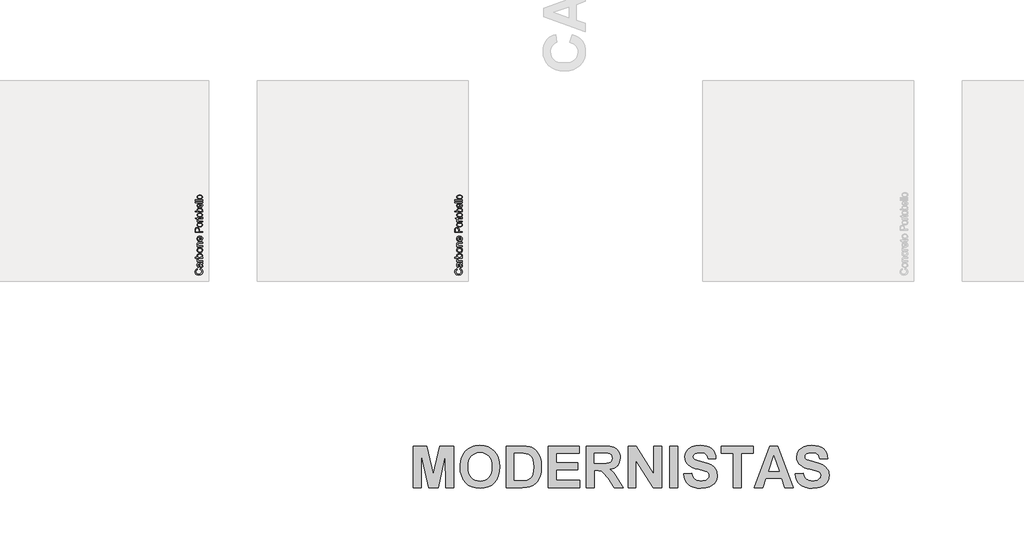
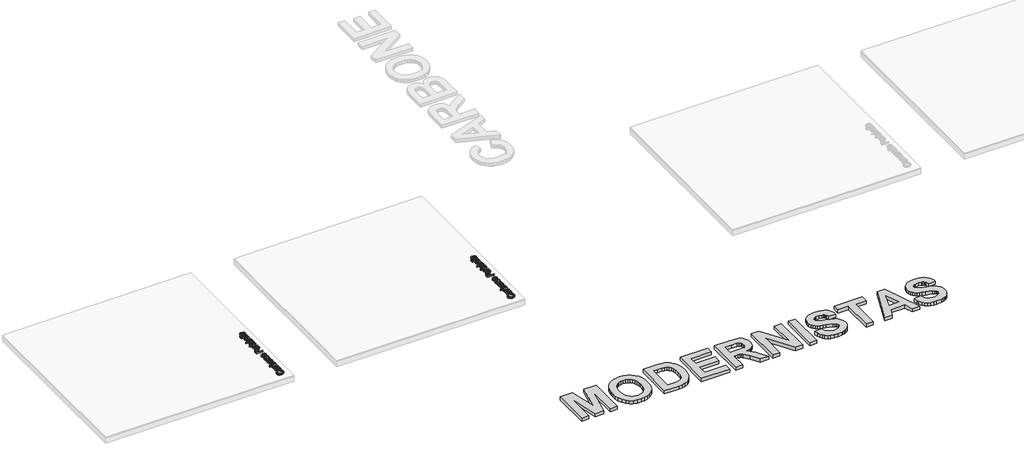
# One storey, part 3 of 12: 5 proxies.
"""IFC4 building model written with IfcOpenShell, lengths in millimetres."""

from ifc_helpers import new_model, si_unit, frame, origin, origin_with_axes, place, context, project, spatial, polyline, outline, extrude, element, save

model = new_model("IFC4")

# Units and contexts
model_context = context("Model", 3, world=origin())
ifc_project = project(units=[si_unit("LENGTHUNIT", "METRE", prefix="MILLI")], contexts=[model_context])

# Site, building, storey
site = spatial("IfcSite", under=ifc_project)
building = spatial("IfcBuilding", under=site)
storey = spatial("IfcBuildingStorey", under=building, Name="PORTOBELLO - SHOWROOM", Elevation=0.0)

# Proxies
placement = place(None, origin())
element("IfcBuildingElementProxy", 1, Name="10mm Arial", ObjectType="10mm Arial", at=placement, inside=storey, context=model_context, shape_type="SweptSolid", body=[
    extrude(outline(polyline([(-25305.3095564, -9697.3091823), (-25302.0721949, -9684.7521435), (-25287.4396885, -9690.5462849), (-25276.7496509, -9699.6391016), (-25270.2105484, -9711.5830037), (-25268.0308476, -9725.9304015), (-25269.6801852, -9740.4954628), (-25274.628198, -9752.0622859), (-25282.7032078, -9760.928242), (-25293.7335363, -9767.3907024), (-25320.588922, -9772.6514149), (-25335.2367567, -9771.1645585), (-25347.885766, -9766.7039893), (-25358.1343452, -9759.5026993), (-25365.58089, -9749.7936803), (-25370.1150356, -9738.2789738), (-25371.6264174, -9725.6606214), (-25369.6705115, -9711.8926377), (-25363.8027937, -9700.5097556), (-25354.3850146, -9691.8675944), (-25341.7789249, -9686.3217734), (-25338.786818, -9698.8788121), (-25354.2255991, -9709.179508), (-25359.0693787, -9726.1511307), (-25353.6983015, -9745.7960293), (-25339.2773273, -9756.8938028), (-25320.6134474, -9760.0943761), (-25298.9819861, -9756.3051916), (-25285.1618858, -9744.5084423), (-25280.5878863, -9727.1812003), (-25282.1452535, -9716.6996291), (-25286.8173548, -9707.9654974), (-25294.5551394, -9701.3712127), (-25305.3095564, -9697.3091823)])), frame((0.0, 0.0, 17.0), z_axis=(0.0, 0.0, 1.0), x_axis=(1.0, 0.0, 0.0)), (0.0, 0.0, 1.0), 20.0),
    extrude(outline(polyline([(-25279.0182565, -9621.9669497), (-25270.5079197, -9634.1438437), (-25268.0308476, -9647.596062), (-25269.5207697, -9658.0898959), (-25273.9905359, -9665.8307462), (-25280.7779587, -9670.6040151), (-25289.2208505, -9672.1951048), (-25299.1536644, -9669.7916091), (-25306.3641515, -9663.4763015), (-25310.4844298, -9654.6839218), (-25312.3728907, -9643.8191402), (-25316.6893728, -9622.0405261), (-25319.485276, -9621.9669497), (-25328.7559023, -9625.4250404), (-25332.3856713, -9639.3064544), (-25329.9699128, -9652.010646), (-25321.3982623, -9658.0684361), (-25322.9678922, -9670.6254749), (-25335.2306254, -9665.1930841), (-25342.416587, -9654.2547261), (-25344.94271, -9637.6877736), (-25342.7108926, -9622.4697217), (-25337.1068235, -9613.8735458), (-25328.584224, -9610.0230476), (-25317.5968151, -9609.4099109), (-25301.974093, -9609.4099109), (-25280.1586907, -9608.7722488), (-25269.6004774, -9606.2706512), (-25269.6004774, -9618.82769), (-25279.0182565, -9621.9669497)]), holes=[polyline([(-25304.132334, -9621.9669497), (-25300.2818358, -9642.2249849), (-25298.2462221, -9653.0284528), (-25294.9352842, -9657.9212833), (-25290.1037673, -9659.638066), (-25283.3102131, -9655.8979324), (-25280.5878863, -9644.9227862), (-25283.592256, -9632.2185946), (-25290.8640567, -9624.0270889), (-25300.5761414, -9622.0405261), (-25304.132334, -9621.9669497)])]), frame((0.0, 0.0, 17.0), z_axis=(0.0, 0.0, 1.0), x_axis=(1.0, 0.0, 0.0)), (0.0, 0.0, 1.0), 20.0),
    extrude(outline(polyline([(-25269.6004774, -9592.1439826), (-25343.3730802, -9592.1439826), (-25343.3730802, -9581.1565737), (-25332.4592477, -9581.1565737), (-25342.5146889, -9573.3574754), (-25344.94271, -9565.5093262), (-25341.0676864, -9552.9032364), (-25329.8104973, -9557.0970912), (-25332.3856713, -9565.9262591), (-25329.9085992, -9573.0263816), (-25323.0414686, -9577.5513301), (-25308.3752397, -9579.5869438), (-25269.6004774, -9579.5869438), (-25269.6004774, -9592.1439826)])), frame((0.0, 0.0, 17.0), z_axis=(0.0, 0.0, 1.0), x_axis=(1.0, 0.0, 0.0)), (0.0, 0.0, 1.0), 20.0),
    extrude(outline(polyline([(-25269.6004774, -9532.4980485), (-25269.6004774, -9545.0550872), (-25370.0567876, -9545.0550872), (-25370.0567876, -9532.4980485), (-25332.8026042, -9532.4980485), (-25341.9076836, -9523.7056688), (-25344.94271, -9512.7795735), (-25342.2081205, -9500.1980093), (-25334.5193868, -9490.4368737), (-25322.563222, -9484.4403971), (-25307.5904248, -9482.2698934), (-25290.8272685, -9484.5170392), (-25278.3560689, -9491.2584768), (-25270.6121529, -9501.1514368), (-25268.0308476, -9512.8531499), (-25271.3601796, -9524.0183685), (-25281.3481758, -9532.4980485), (-25269.6004774, -9532.4980485)]), holes=[polyline([(-25307.0018136, -9532.4980485), (-25289.4415797, -9529.0644832), (-25282.8013097, -9522.4855268), (-25280.5878863, -9513.9322704), (-25282.2188299, -9506.6849951), (-25287.1116604, -9500.4923149), (-25295.2357211, -9496.2432778), (-25306.5603552, -9494.8269321), (-25318.0505362, -9496.1850298), (-25326.0826264, -9500.2593229), (-25330.8099101, -9506.2588651), (-25332.3856713, -9513.3927102), (-25330.7547278, -9520.6399855), (-25325.8618972, -9526.8326657), (-25317.8849893, -9531.0817028), (-25307.0018136, -9532.4980485)])]), frame((0.0, 0.0, 17.0), z_axis=(0.0, 0.0, 1.0), x_axis=(1.0, 0.0, 0.0)), (0.0, 0.0, 1.0), 20.0),
    extrude(outline(polyline([(-25306.4867788, -9471.2824845), (-25324.2738733, -9468.5662891), (-25336.7757297, -9460.4177029), (-25342.900965, -9450.3499989), (-25344.94271, -9438.2957322), (-25342.4564409, -9425.104097), (-25334.9976334, -9414.5673435), (-25323.1548989, -9407.6603591), (-25307.5168484, -9405.3580309), (-25285.1741486, -9409.4292583), (-25272.5312707, -9421.2873213), (-25268.0308476, -9438.2957322), (-25270.5079197, -9451.646783), (-25277.939136, -9462.1712737), (-25290.0301909, -9469.0046818), (-25306.4867788, -9471.2824845)]), holes=[polyline([(-25306.5113043, -9458.7254457), (-25295.1468163, -9457.2723118), (-25287.0503467, -9452.9129102), (-25282.2035014, -9446.3523479), (-25280.5878863, -9438.2957322), (-25282.2126985, -9430.2759047), (-25287.0871349, -9423.7276052), (-25295.2909034, -9419.3682036), (-25306.9037117, -9417.9150697), (-25317.9371059, -9419.3774006), (-25325.9232109, -9423.7643934), (-25330.7700562, -9430.32189), (-25332.3856713, -9438.2957322), (-25330.7761875, -9446.3523479), (-25325.9477364, -9452.9129102), (-25317.8696609, -9457.2723118), (-25306.5113043, -9458.7254457)])]), frame((0.0, 0.0, 17.0), z_axis=(0.0, 0.0, 1.0), x_axis=(1.0, 0.0, 0.0)), (0.0, 0.0, 1.0), 20.0),
    extrude(outline(polyline([(-25269.6004774, -9391.2313623), (-25343.3730802, -9391.2313623), (-25343.3730802, -9378.6743235), (-25333.0723843, -9378.6743235), (-25341.9751286, -9369.0726035), (-25344.94271, -9355.9637417), (-25342.5514771, -9344.1056787), (-25336.2729577, -9336.0122748), (-25327.0391196, -9332.2476157), (-25314.8990138, -9331.5854282), (-25269.6004774, -9331.5854282), (-25269.6004774, -9344.1424669), (-25313.2067566, -9344.1424669), (-25324.3167928, -9345.5894694), (-25330.190642, -9350.7030292), (-25332.3856713, -9359.3237306), (-25327.4560525, -9372.9476271), (-25320.3130105, -9377.2426494), (-25308.7431217, -9378.6743235), (-25269.6004774, -9378.6743235), (-25269.6004774, -9391.2313623)])), frame((0.0, 0.0, 17.0), z_axis=(0.0, 0.0, 1.0), x_axis=(1.0, 0.0, 0.0)), (0.0, 0.0, 1.0), 20.0),
    extrude(outline(polyline([(-25291.5752953, -9262.6688677), (-25290.0056654, -9250.3570836), (-25280.7289078, -9254.7931273), (-25273.7943322, -9261.8717901), (-25269.4717187, -9271.4336563), (-25268.0308476, -9283.3193104), (-25270.5171167, -9298.0529843), (-25277.9759242, -9309.3898811), (-25289.922892, -9316.6187623), (-25305.8736422, -9319.0283894), (-25322.3608869, -9316.5942368), (-25334.6910651, -9309.2917792), (-25342.3797988, -9298.1081666), (-25344.94271, -9284.0305489), (-25342.3859302, -9270.3913239), (-25334.7155906, -9259.4928198), (-25322.4099378, -9252.3467121), (-25305.9472185, -9249.9646762), (-25302.5627042, -9250.0382526), (-25302.5627042, -9306.4713506), (-25293.1633192, -9304.2977812), (-25286.2532691, -9299.2486008), (-25282.004232, -9291.9614716), (-25280.5878863, -9283.0740557), (-25283.2121112, -9270.7622716), (-25291.5752953, -9262.6688677)]), holes=[polyline([(-25315.119743, -9306.4713506), (-25315.119743, -9262.5217149), (-25326.4995593, -9267.5494355), (-25330.9141433, -9274.8702872), (-25332.3856713, -9284.0795998), (-25327.6890445, -9299.5429064), (-25322.1984057, -9304.4081458), (-25315.119743, -9306.4713506)])]), frame((0.0, 0.0, 17.0), z_axis=(0.0, 0.0, 1.0), x_axis=(1.0, 0.0, 0.0)), (0.0, 0.0, 1.0), 20.0),
])
element("IfcBuildingElementProxy", 2, Name="10mm Arial", ObjectType="10mm Arial", at=placement, inside=storey, context=model_context, shape_type="SweptSolid", body=[
    extrude(outline(polyline([(-28805.3095564, -9697.3091823), (-28802.0721949, -9684.7521435), (-28787.4396885, -9690.5462849), (-28776.7496509, -9699.6391016), (-28770.2105484, -9711.5830037), (-28768.0308476, -9725.9304015), (-28769.6801852, -9740.4954628), (-28774.628198, -9752.0622859), (-28782.7032078, -9760.928242), (-28793.7335363, -9767.3907024), (-28820.588922, -9772.6514149), (-28835.2367567, -9771.1645585), (-28847.885766, -9766.7039893), (-28858.1343452, -9759.5026993), (-28865.58089, -9749.7936803), (-28870.1150356, -9738.2789738), (-28871.6264174, -9725.6606214), (-28869.6705115, -9711.8926377), (-28863.8027937, -9700.5097556), (-28854.3850146, -9691.8675944), (-28841.7789249, -9686.3217734), (-28838.786818, -9698.8788121), (-28854.2255991, -9709.179508), (-28859.0693787, -9726.1511307), (-28853.6983015, -9745.7960293), (-28839.2773273, -9756.8938028), (-28820.6134474, -9760.0943761), (-28798.9819861, -9756.3051916), (-28785.1618858, -9744.5084423), (-28780.5878863, -9727.1812003), (-28782.1452535, -9716.6996291), (-28786.8173548, -9707.9654974), (-28794.5551394, -9701.3712127), (-28805.3095564, -9697.3091823)])), frame((0.0, 0.0, 17.0), z_axis=(0.0, 0.0, 1.0), x_axis=(1.0, 0.0, 0.0)), (0.0, 0.0, 1.0), 20.0),
    extrude(outline(polyline([(-28779.0182565, -9621.9669497), (-28770.5079197, -9634.1438437), (-28768.0308476, -9647.596062), (-28769.5207697, -9658.0898959), (-28773.9905359, -9665.8307462), (-28780.7779587, -9670.6040151), (-28789.2208505, -9672.1951048), (-28799.1536644, -9669.7916091), (-28806.3641515, -9663.4763015), (-28810.4844298, -9654.6839218), (-28812.3728907, -9643.8191402), (-28816.6893728, -9622.0405261), (-28819.485276, -9621.9669497), (-28828.7559023, -9625.4250404), (-28832.3856713, -9639.3064544), (-28829.9699128, -9652.010646), (-28821.3982623, -9658.0684361), (-28822.9678922, -9670.6254749), (-28835.2306254, -9665.1930841), (-28842.416587, -9654.2547261), (-28844.94271, -9637.6877736), (-28842.7108926, -9622.4697217), (-28837.1068235, -9613.8735458), (-28828.584224, -9610.0230476), (-28817.5968151, -9609.4099109), (-28801.974093, -9609.4099109), (-28780.1586907, -9608.7722488), (-28769.6004774, -9606.2706512), (-28769.6004774, -9618.82769), (-28779.0182565, -9621.9669497)]), holes=[polyline([(-28804.132334, -9621.9669497), (-28800.2818358, -9642.2249849), (-28798.2462221, -9653.0284528), (-28794.9352842, -9657.9212833), (-28790.1037673, -9659.638066), (-28783.3102131, -9655.8979324), (-28780.5878863, -9644.9227862), (-28783.592256, -9632.2185946), (-28790.8640567, -9624.0270889), (-28800.5761414, -9622.0405261), (-28804.132334, -9621.9669497)])]), frame((0.0, 0.0, 17.0), z_axis=(0.0, 0.0, 1.0), x_axis=(1.0, 0.0, 0.0)), (0.0, 0.0, 1.0), 20.0),
    extrude(outline(polyline([(-28769.6004774, -9592.1439826), (-28843.3730802, -9592.1439826), (-28843.3730802, -9581.1565737), (-28832.4592477, -9581.1565737), (-28842.5146889, -9573.3574754), (-28844.94271, -9565.5093262), (-28841.0676864, -9552.9032364), (-28829.8104973, -9557.0970912), (-28832.3856713, -9565.9262591), (-28829.9085992, -9573.0263816), (-28823.0414686, -9577.5513301), (-28808.3752397, -9579.5869438), (-28769.6004774, -9579.5869438), (-28769.6004774, -9592.1439826)])), frame((0.0, 0.0, 17.0), z_axis=(0.0, 0.0, 1.0), x_axis=(1.0, 0.0, 0.0)), (0.0, 0.0, 1.0), 20.0),
    extrude(outline(polyline([(-28769.6004774, -9532.4980485), (-28769.6004774, -9545.0550872), (-28870.0567876, -9545.0550872), (-28870.0567876, -9532.4980485), (-28832.8026042, -9532.4980485), (-28841.9076836, -9523.7056688), (-28844.94271, -9512.7795735), (-28842.2081205, -9500.1980093), (-28834.5193868, -9490.4368737), (-28822.563222, -9484.4403971), (-28807.5904248, -9482.2698934), (-28790.8272685, -9484.5170392), (-28778.3560689, -9491.2584768), (-28770.6121529, -9501.1514368), (-28768.0308476, -9512.8531499), (-28771.3601796, -9524.0183685), (-28781.3481758, -9532.4980485), (-28769.6004774, -9532.4980485)]), holes=[polyline([(-28807.0018136, -9532.4980485), (-28789.4415797, -9529.0644832), (-28782.8013097, -9522.4855268), (-28780.5878863, -9513.9322704), (-28782.2188299, -9506.6849951), (-28787.1116604, -9500.4923149), (-28795.2357211, -9496.2432778), (-28806.5603552, -9494.8269321), (-28818.0505362, -9496.1850298), (-28826.0826264, -9500.2593229), (-28830.8099101, -9506.2588651), (-28832.3856713, -9513.3927102), (-28830.7547278, -9520.6399855), (-28825.8618972, -9526.8326657), (-28817.8849893, -9531.0817028), (-28807.0018136, -9532.4980485)])]), frame((0.0, 0.0, 17.0), z_axis=(0.0, 0.0, 1.0), x_axis=(1.0, 0.0, 0.0)), (0.0, 0.0, 1.0), 20.0),
    extrude(outline(polyline([(-28806.4867788, -9471.2824845), (-28824.2738733, -9468.5662891), (-28836.7757297, -9460.4177029), (-28842.900965, -9450.3499989), (-28844.94271, -9438.2957322), (-28842.4564409, -9425.104097), (-28834.9976334, -9414.5673435), (-28823.1548989, -9407.6603591), (-28807.5168484, -9405.3580309), (-28785.1741486, -9409.4292583), (-28772.5312707, -9421.2873213), (-28768.0308476, -9438.2957322), (-28770.5079197, -9451.646783), (-28777.939136, -9462.1712737), (-28790.0301909, -9469.0046818), (-28806.4867788, -9471.2824845)]), holes=[polyline([(-28806.5113043, -9458.7254457), (-28795.1468163, -9457.2723118), (-28787.0503467, -9452.9129102), (-28782.2035014, -9446.3523479), (-28780.5878863, -9438.2957322), (-28782.2126985, -9430.2759047), (-28787.0871349, -9423.7276052), (-28795.2909034, -9419.3682036), (-28806.9037117, -9417.9150697), (-28817.9371059, -9419.3774006), (-28825.9232109, -9423.7643934), (-28830.7700562, -9430.32189), (-28832.3856713, -9438.2957322), (-28830.7761875, -9446.3523479), (-28825.9477364, -9452.9129102), (-28817.8696609, -9457.2723118), (-28806.5113043, -9458.7254457)])]), frame((0.0, 0.0, 17.0), z_axis=(0.0, 0.0, 1.0), x_axis=(1.0, 0.0, 0.0)), (0.0, 0.0, 1.0), 20.0),
    extrude(outline(polyline([(-28769.6004774, -9391.2313623), (-28843.3730802, -9391.2313623), (-28843.3730802, -9378.6743235), (-28833.0723843, -9378.6743235), (-28841.9751286, -9369.0726035), (-28844.94271, -9355.9637417), (-28842.5514771, -9344.1056787), (-28836.2729577, -9336.0122748), (-28827.0391196, -9332.2476157), (-28814.8990138, -9331.5854282), (-28769.6004774, -9331.5854282), (-28769.6004774, -9344.1424669), (-28813.2067566, -9344.1424669), (-28824.3167928, -9345.5894694), (-28830.190642, -9350.7030292), (-28832.3856713, -9359.3237306), (-28827.4560525, -9372.9476271), (-28820.3130105, -9377.2426494), (-28808.7431217, -9378.6743235), (-28769.6004774, -9378.6743235), (-28769.6004774, -9391.2313623)])), frame((0.0, 0.0, 17.0), z_axis=(0.0, 0.0, 1.0), x_axis=(1.0, 0.0, 0.0)), (0.0, 0.0, 1.0), 20.0),
    extrude(outline(polyline([(-28791.5752953, -9262.6688677), (-28790.0056654, -9250.3570836), (-28780.7289078, -9254.7931273), (-28773.7943322, -9261.8717901), (-28769.4717187, -9271.4336563), (-28768.0308476, -9283.3193104), (-28770.5171167, -9298.0529843), (-28777.9759242, -9309.3898811), (-28789.922892, -9316.6187623), (-28805.8736422, -9319.0283894), (-28822.3608869, -9316.5942368), (-28834.6910651, -9309.2917792), (-28842.3797988, -9298.1081666), (-28844.94271, -9284.0305489), (-28842.3859302, -9270.3913239), (-28834.7155906, -9259.4928198), (-28822.4099378, -9252.3467121), (-28805.9472185, -9249.9646762), (-28802.5627042, -9250.0382526), (-28802.5627042, -9306.4713506), (-28793.1633192, -9304.2977812), (-28786.2532691, -9299.2486008), (-28782.004232, -9291.9614716), (-28780.5878863, -9283.0740557), (-28783.2121112, -9270.7622716), (-28791.5752953, -9262.6688677)]), holes=[polyline([(-28815.119743, -9306.4713506), (-28815.119743, -9262.5217149), (-28826.4995593, -9267.5494355), (-28830.9141433, -9274.8702872), (-28832.3856713, -9284.0795998), (-28827.6890445, -9299.5429064), (-28822.1984057, -9304.4081458), (-28815.119743, -9306.4713506)])]), frame((0.0, 0.0, 17.0), z_axis=(0.0, 0.0, 1.0), x_axis=(1.0, 0.0, 0.0)), (0.0, 0.0, 1.0), 20.0),
])
element("IfcBuildingElementProxy", 3, Name="10mm Arial Narrow", ObjectType="10mm Arial Narrow", at=placement, inside=storey, context=model_context, shape_type="SweptSolid", body=[
    extrude(outline(polyline([(-25269.6004774, -9195.6286257), (-25370.3190812, -9195.6286257), (-25370.3190812, -9164.3317411), (-25368.4407604, -9148.0360395), (-25358.9603173, -9136.5630534), (-25341.9412084, -9132.273375), (-25329.8653829, -9134.0596834), (-25320.2389891, -9139.4186086), (-25313.9377307, -9149.1623974), (-25311.8373113, -9164.1032966), (-25311.8373113, -9185.8816641), (-25269.6004774, -9185.8816641), (-25269.6004774, -9195.6286257)]), holes=[polyline([(-25323.2087665, -9185.8816641), (-25323.2087665, -9162.9103091), (-25327.7395807, -9147.0461137), (-25341.4081715, -9142.0203366), (-25351.5739479, -9144.4951511), (-25357.3738977, -9150.47278), (-25358.9476259, -9163.1387536), (-25358.9476259, -9185.8816641), (-25323.2087665, -9185.8816641)])]), frame((0.0, 0.0, 17.0), z_axis=(0.0, 0.0, 1.0), x_axis=(1.0, 0.0, 0.0)), (0.0, 0.0, 1.0), 20.0),
    extrude(outline(polyline([(-25306.1515836, -9124.1509069), (-25322.7423592, -9122.1964381), (-25334.694444, -9116.3330315), (-25341.9189986, -9107.4744647), (-25344.3271834, -9096.5345156), (-25341.9189986, -9085.72148), (-25334.694444, -9076.8375306), (-25322.9327295, -9070.8979758), (-25306.913065, -9068.9181242), (-25289.7511784, -9070.8630746), (-25277.6087233, -9076.6979257), (-25270.3841687, -9085.5469739), (-25267.9759838, -9096.5345156), (-25270.3905144, -9107.3951438), (-25277.634106, -9116.2695747), (-25289.5925365, -9122.1805739), (-25306.1515836, -9124.1509069)]), holes=[polyline([(-25306.1769663, -9114.4039453), (-25293.6252149, -9113.0999084), (-25284.7539569, -9109.1877978), (-25279.4806983, -9103.3466011), (-25277.7229455, -9096.2553058), (-25279.4965625, -9089.5352326), (-25284.8174137, -9083.8431593), (-25293.7045359, -9079.9596042), (-25306.1769663, -9078.6650859), (-25318.6906437, -9079.9691228), (-25327.5492104, -9083.8812333), (-25332.8224689, -9089.7224301), (-25334.5802218, -9096.8137254), (-25332.8129504, -9103.5813912), (-25327.5111363, -9109.263946), (-25318.6430511, -9113.1189455), (-25306.1769663, -9114.4039453)])]), frame((0.0, 0.0, 17.0), z_axis=(0.0, 0.0, 1.0), x_axis=(1.0, 0.0, 0.0)), (0.0, 0.0, 1.0), 20.0),
    extrude(outline(polyline([(-25277.7229455, -8997.4404054), (-25267.9759838, -8995.8159118), (-25267.9759838, -9003.1768985), (-25270.0954403, -9011.4516628), (-25275.8953902, -9015.766724), (-25290.5412154, -9016.9343288), (-25332.9557282, -9016.9343288), (-25332.9557282, -9025.0567968), (-25336.2047154, -9025.0567968), (-25331.3312346, -9026.6812904), (-25332.9557282, -9034.2453388), (-25330.63321, -9040.3244985), (-25324.1479269, -9044.1953621), (-25308.7406203, -9046.1752137), (-25269.6004774, -9046.1752137), (-25269.6004774, -9055.9221754), (-25342.7026898, -9055.9221754), (-25342.7026898, -9046.1752137), (-25333.0064936, -9046.1752137), (-25342.0935047, -9039.9310664), (-25344.3271834, -9033.5346228), (-25342.7026898, -9025.0567968), (-25342.7026898, -9016.9343288), (-25358.9476259, -9016.9343288), (-25367.070094, -9007.1873671), (-25342.7026898, -9007.1873671), (-25342.7026898, -8997.4404054), (-25332.9557282, -8997.4404054), (-25332.9557282, -9007.1873671), (-25288.3075366, -9007.1873671), (-25280.3119822, -9006.3243549), (-25277.7229455, -9001.7047012), (-25277.7229455, -8997.4404054)])), frame((0.0, 0.0, 17.0), z_axis=(0.0, 0.0, 1.0), x_axis=(1.0, 0.0, 0.0)), (0.0, 0.0, 1.0), 20.0),
    extrude(outline(polyline([(-25306.1515836, -8990.942431), (-25322.7423592, -8988.9879621), (-25334.694444, -8983.1245555), (-25341.9189986, -8974.2659888), (-25344.3271834, -8963.3260397), (-25341.9189986, -8952.5130041), (-25334.694444, -8943.6290547), (-25322.9327295, -8937.6894999), (-25306.913065, -8935.7096483), (-25289.7511784, -8937.6545987), (-25277.6087233, -8943.4894497), (-25270.3841687, -8952.3384979), (-25267.9759838, -8963.3260397), (-25270.3905144, -8974.1866678), (-25277.634106, -8983.0610987), (-25289.5925365, -8988.9720979), (-25306.1515836, -8990.942431)]), holes=[polyline([(-25306.1769663, -8981.1954694), (-25293.6252149, -8979.8914325), (-25284.7539569, -8975.9793219), (-25279.4806983, -8970.1381252), (-25277.7229455, -8963.0468298), (-25279.4965625, -8956.3267567), (-25284.8174137, -8950.6346833), (-25293.7045359, -8946.7511283), (-25306.1769663, -8945.45661), (-25318.6906437, -8946.7606468), (-25327.5492104, -8950.6727574), (-25332.8224689, -8956.5139542), (-25334.5802218, -8963.6052495), (-25332.8129504, -8970.3729153), (-25327.5111363, -8976.05547), (-25318.6430511, -8979.9104695), (-25306.1769663, -8981.1954694)])]), frame((0.0, 0.0, 17.0), z_axis=(0.0, 0.0, 1.0), x_axis=(1.0, 0.0, 0.0)), (0.0, 0.0, 1.0), 20.0),
    extrude(outline(polyline([(-25269.6004774, -8912.9667378), (-25269.6004774, -8922.7136994), (-25370.3190812, -8922.7136994), (-25370.3190812, -8912.9667378), (-25334.910197, -8912.9667378), (-25341.9919739, -8905.5676771), (-25344.3271834, -8896.3664437), (-25340.1263445, -8883.4847171), (-25327.3969141, -8874.2073356), (-25306.7100033, -8870.729904), (-25290.2556598, -8872.662163), (-25278.0529207, -8878.45894), (-25270.495218, -8886.8320623), (-25267.9759838, -8896.4933573), (-25270.5904032, -8905.8341955), (-25278.3575133, -8912.9667378), (-25269.6004774, -8912.9667378)]), holes=[polyline([(-25306.7100033, -8912.9667378), (-25289.4624501, -8910.8853553), (-25280.7307969, -8904.996566), (-25277.7229455, -8896.5441227), (-25279.5124267, -8890.6013951), (-25284.8808704, -8885.3630378), (-25306.3038799, -8880.4768656), (-25327.7395807, -8885.1853588), (-25332.8700615, -8890.4300618), (-25334.5802218, -8896.7471844), (-25332.7907405, -8902.7248132), (-25327.4222968, -8908.0171088), (-25306.7100033, -8912.9667378)])]), frame((0.0, 0.0, 17.0), z_axis=(0.0, 0.0, 1.0), x_axis=(1.0, 0.0, 0.0)), (0.0, 0.0, 1.0), 20.0),
    extrude(outline(polyline([(-25292.343388, -8818.7461085), (-25290.7188943, -8808.9991468), (-25280.8323278, -8812.6986772), (-25273.7124769, -8818.5176641), (-25269.4101071, -8826.2213173), (-25267.9759838, -8835.5748469), (-25270.3905144, -8847.1684009), (-25277.634106, -8856.3125232), (-25289.4402402, -8862.2520779), (-25305.5423985, -8864.2319295), (-25322.2093222, -8862.2425594), (-25334.3898514, -8856.2744491), (-25341.8428504, -8847.2604133), (-25344.3271834, -8836.1332666), (-25341.9285171, -8825.4503174), (-25334.7325181, -8816.7028001), (-25322.9930135, -8810.867949), (-25306.9638304, -8808.9229987), (-25303.7148432, -8808.9991468), (-25303.7148432, -8854.4849679), (-25284.2716853, -8848.4819563), (-25279.3601304, -8842.5519201), (-25277.7229455, -8835.4479334), (-25281.3780561, -8825.2694656), (-25292.343388, -8818.7461085)]), holes=[polyline([(-25313.4618049, -8853.8250173), (-25313.4618049, -8818.7461085), (-25327.7268894, -8823.0104042), (-25332.8668887, -8828.8357367), (-25334.5802218, -8836.0571185), (-25328.8691114, -8848.2662033), (-25313.4618049, -8853.8250173)])]), frame((0.0, 0.0, 17.0), z_axis=(0.0, 0.0, 1.0), x_axis=(1.0, 0.0, 0.0)), (0.0, 0.0, 1.0), 20.0),
    extrude(outline(polyline([(-25269.6004774, -8796.0031979), (-25370.3190812, -8796.0031979), (-25370.3190812, -8786.2562363), (-25269.6004774, -8786.2562363), (-25269.6004774, -8796.0031979)])), frame((0.0, 0.0, 17.0), z_axis=(0.0, 0.0, 1.0), x_axis=(1.0, 0.0, 0.0)), (0.0, 0.0, 1.0), 20.0),
    extrude(outline(polyline([(-25269.6004774, -8770.0113002), (-25370.3190812, -8770.0113002), (-25370.3190812, -8760.2643385), (-25269.6004774, -8760.2643385), (-25269.6004774, -8770.0113002)])), frame((0.0, 0.0, 17.0), z_axis=(0.0, 0.0, 1.0), x_axis=(1.0, 0.0, 0.0)), (0.0, 0.0, 1.0), 20.0),
    extrude(outline(polyline([(-25306.1515836, -8748.8928833), (-25322.7423592, -8746.9384144), (-25334.694444, -8741.0750078), (-25341.9189986, -8732.2164411), (-25344.3271834, -8721.2764919), (-25341.9189986, -8710.4634563), (-25334.694444, -8701.5795069), (-25322.9327295, -8695.6399522), (-25306.913065, -8693.6601006), (-25289.7511784, -8695.6050509), (-25277.6087233, -8701.439902), (-25270.3841687, -8710.2889502), (-25267.9759838, -8721.2764919), (-25270.3905144, -8732.1371201), (-25277.634106, -8741.011551), (-25289.5925365, -8746.9225502), (-25306.1515836, -8748.8928833)]), holes=[polyline([(-25306.1769663, -8739.1459216), (-25293.6252149, -8737.8418848), (-25284.7539569, -8733.9297742), (-25279.4806983, -8728.0885774), (-25277.7229455, -8720.9972821), (-25279.4965625, -8714.2772089), (-25284.8174137, -8708.5851356), (-25293.7045359, -8704.7015806), (-25306.1769663, -8703.4070622), (-25318.6906437, -8704.7110991), (-25327.5492104, -8708.6232097), (-25332.8224689, -8714.4644064), (-25334.5802218, -8721.5557018), (-25332.8129504, -8728.3233675), (-25327.5111363, -8734.0059223), (-25318.6430511, -8737.8609218), (-25306.1769663, -8739.1459216)])]), frame((0.0, 0.0, 17.0), z_axis=(0.0, 0.0, 1.0), x_axis=(1.0, 0.0, 0.0)), (0.0, 0.0, 1.0), 20.0),
])
element("IfcBuildingElementProxy", 4, Name="10mm Arial Narrow", ObjectType="10mm Arial Narrow", at=placement, inside=storey, context=model_context, shape_type="SweptSolid", body=[
    extrude(outline(polyline([(-28769.6004774, -9195.6286257), (-28870.3190812, -9195.6286257), (-28870.3190812, -9164.3317411), (-28868.4407604, -9148.0360395), (-28858.9603173, -9136.5630534), (-28841.9412084, -9132.273375), (-28829.8653829, -9134.0596834), (-28820.2389891, -9139.4186086), (-28813.9377307, -9149.1623974), (-28811.8373113, -9164.1032966), (-28811.8373113, -9185.8816641), (-28769.6004774, -9185.8816641), (-28769.6004774, -9195.6286257)]), holes=[polyline([(-28823.2087665, -9185.8816641), (-28823.2087665, -9162.9103091), (-28827.7395807, -9147.0461137), (-28841.4081715, -9142.0203366), (-28851.5739479, -9144.4951511), (-28857.3738977, -9150.47278), (-28858.9476259, -9163.1387536), (-28858.9476259, -9185.8816641), (-28823.2087665, -9185.8816641)])]), frame((0.0, 0.0, 17.0), z_axis=(0.0, 0.0, 1.0), x_axis=(1.0, 0.0, 0.0)), (0.0, 0.0, 1.0), 20.0),
    extrude(outline(polyline([(-28806.1515836, -9124.1509069), (-28822.7423592, -9122.1964381), (-28834.694444, -9116.3330315), (-28841.9189986, -9107.4744647), (-28844.3271834, -9096.5345156), (-28841.9189986, -9085.72148), (-28834.694444, -9076.8375306), (-28822.9327295, -9070.8979758), (-28806.913065, -9068.9181242), (-28789.7511784, -9070.8630746), (-28777.6087233, -9076.6979257), (-28770.3841687, -9085.5469739), (-28767.9759838, -9096.5345156), (-28770.3905144, -9107.3951438), (-28777.634106, -9116.2695747), (-28789.5925365, -9122.1805739), (-28806.1515836, -9124.1509069)]), holes=[polyline([(-28806.1769663, -9114.4039453), (-28793.6252149, -9113.0999084), (-28784.7539569, -9109.1877978), (-28779.4806983, -9103.3466011), (-28777.7229455, -9096.2553058), (-28779.4965625, -9089.5352326), (-28784.8174137, -9083.8431593), (-28793.7045359, -9079.9596042), (-28806.1769663, -9078.6650859), (-28818.6906437, -9079.9691228), (-28827.5492104, -9083.8812333), (-28832.8224689, -9089.7224301), (-28834.5802218, -9096.8137254), (-28832.8129504, -9103.5813912), (-28827.5111363, -9109.263946), (-28818.6430511, -9113.1189455), (-28806.1769663, -9114.4039453)])]), frame((0.0, 0.0, 17.0), z_axis=(0.0, 0.0, 1.0), x_axis=(1.0, 0.0, 0.0)), (0.0, 0.0, 1.0), 20.0),
    extrude(outline(polyline([(-28777.7229455, -8997.4404054), (-28767.9759838, -8995.8159118), (-28767.9759838, -9003.1768985), (-28770.0954403, -9011.4516628), (-28775.8953902, -9015.766724), (-28790.5412154, -9016.9343288), (-28832.9557282, -9016.9343288), (-28832.9557282, -9025.0567968), (-28836.2047154, -9025.0567968), (-28831.3312346, -9026.6812904), (-28832.9557282, -9034.2453388), (-28830.63321, -9040.3244985), (-28824.1479269, -9044.1953621), (-28808.7406203, -9046.1752137), (-28769.6004774, -9046.1752137), (-28769.6004774, -9055.9221754), (-28842.7026898, -9055.9221754), (-28842.7026898, -9046.1752137), (-28833.0064936, -9046.1752137), (-28842.0935047, -9039.9310664), (-28844.3271834, -9033.5346228), (-28842.7026898, -9025.0567968), (-28842.7026898, -9016.9343288), (-28858.9476259, -9016.9343288), (-28867.070094, -9007.1873671), (-28842.7026898, -9007.1873671), (-28842.7026898, -8997.4404054), (-28832.9557282, -8997.4404054), (-28832.9557282, -9007.1873671), (-28788.3075366, -9007.1873671), (-28780.3119822, -9006.3243549), (-28777.7229455, -9001.7047012), (-28777.7229455, -8997.4404054)])), frame((0.0, 0.0, 17.0), z_axis=(0.0, 0.0, 1.0), x_axis=(1.0, 0.0, 0.0)), (0.0, 0.0, 1.0), 20.0),
    extrude(outline(polyline([(-28806.1515836, -8990.942431), (-28822.7423592, -8988.9879621), (-28834.694444, -8983.1245555), (-28841.9189986, -8974.2659888), (-28844.3271834, -8963.3260397), (-28841.9189986, -8952.5130041), (-28834.694444, -8943.6290547), (-28822.9327295, -8937.6894999), (-28806.913065, -8935.7096483), (-28789.7511784, -8937.6545987), (-28777.6087233, -8943.4894497), (-28770.3841687, -8952.3384979), (-28767.9759838, -8963.3260397), (-28770.3905144, -8974.1866678), (-28777.634106, -8983.0610987), (-28789.5925365, -8988.9720979), (-28806.1515836, -8990.942431)]), holes=[polyline([(-28806.1769663, -8981.1954694), (-28793.6252149, -8979.8914325), (-28784.7539569, -8975.9793219), (-28779.4806983, -8970.1381252), (-28777.7229455, -8963.0468298), (-28779.4965625, -8956.3267567), (-28784.8174137, -8950.6346833), (-28793.7045359, -8946.7511283), (-28806.1769663, -8945.45661), (-28818.6906437, -8946.7606468), (-28827.5492104, -8950.6727574), (-28832.8224689, -8956.5139542), (-28834.5802218, -8963.6052495), (-28832.8129504, -8970.3729153), (-28827.5111363, -8976.05547), (-28818.6430511, -8979.9104695), (-28806.1769663, -8981.1954694)])]), frame((0.0, 0.0, 17.0), z_axis=(0.0, 0.0, 1.0), x_axis=(1.0, 0.0, 0.0)), (0.0, 0.0, 1.0), 20.0),
    extrude(outline(polyline([(-28769.6004774, -8912.9667378), (-28769.6004774, -8922.7136994), (-28870.3190812, -8922.7136994), (-28870.3190812, -8912.9667378), (-28834.910197, -8912.9667378), (-28841.9919739, -8905.5676771), (-28844.3271834, -8896.3664437), (-28840.1263445, -8883.4847171), (-28827.3969141, -8874.2073356), (-28806.7100033, -8870.729904), (-28790.2556598, -8872.662163), (-28778.0529207, -8878.45894), (-28770.495218, -8886.8320623), (-28767.9759838, -8896.4933573), (-28770.5904032, -8905.8341955), (-28778.3575133, -8912.9667378), (-28769.6004774, -8912.9667378)]), holes=[polyline([(-28806.7100033, -8912.9667378), (-28789.4624501, -8910.8853553), (-28780.7307969, -8904.996566), (-28777.7229455, -8896.5441227), (-28779.5124267, -8890.6013951), (-28784.8808704, -8885.3630378), (-28806.3038799, -8880.4768656), (-28827.7395807, -8885.1853588), (-28832.8700615, -8890.4300618), (-28834.5802218, -8896.7471844), (-28832.7907405, -8902.7248132), (-28827.4222968, -8908.0171088), (-28806.7100033, -8912.9667378)])]), frame((0.0, 0.0, 17.0), z_axis=(0.0, 0.0, 1.0), x_axis=(1.0, 0.0, 0.0)), (0.0, 0.0, 1.0), 20.0),
    extrude(outline(polyline([(-28792.343388, -8818.7461085), (-28790.7188943, -8808.9991468), (-28780.8323278, -8812.6986772), (-28773.7124769, -8818.5176641), (-28769.4101071, -8826.2213173), (-28767.9759838, -8835.5748469), (-28770.3905144, -8847.1684009), (-28777.634106, -8856.3125232), (-28789.4402402, -8862.2520779), (-28805.5423985, -8864.2319295), (-28822.2093222, -8862.2425594), (-28834.3898514, -8856.2744491), (-28841.8428504, -8847.2604133), (-28844.3271834, -8836.1332666), (-28841.9285171, -8825.4503174), (-28834.7325181, -8816.7028001), (-28822.9930135, -8810.867949), (-28806.9638304, -8808.9229987), (-28803.7148432, -8808.9991468), (-28803.7148432, -8854.4849679), (-28784.2716853, -8848.4819563), (-28779.3601304, -8842.5519201), (-28777.7229455, -8835.4479334), (-28781.3780561, -8825.2694656), (-28792.343388, -8818.7461085)]), holes=[polyline([(-28813.4618049, -8853.8250173), (-28813.4618049, -8818.7461085), (-28827.7268894, -8823.0104042), (-28832.8668887, -8828.8357367), (-28834.5802218, -8836.0571185), (-28828.8691114, -8848.2662033), (-28813.4618049, -8853.8250173)])]), frame((0.0, 0.0, 17.0), z_axis=(0.0, 0.0, 1.0), x_axis=(1.0, 0.0, 0.0)), (0.0, 0.0, 1.0), 20.0),
    extrude(outline(polyline([(-28769.6004774, -8796.0031979), (-28870.3190812, -8796.0031979), (-28870.3190812, -8786.2562363), (-28769.6004774, -8786.2562363), (-28769.6004774, -8796.0031979)])), frame((0.0, 0.0, 17.0), z_axis=(0.0, 0.0, 1.0), x_axis=(1.0, 0.0, 0.0)), (0.0, 0.0, 1.0), 20.0),
    extrude(outline(polyline([(-28769.6004774, -8770.0113002), (-28870.3190812, -8770.0113002), (-28870.3190812, -8760.2643385), (-28769.6004774, -8760.2643385), (-28769.6004774, -8770.0113002)])), frame((0.0, 0.0, 17.0), z_axis=(0.0, 0.0, 1.0), x_axis=(1.0, 0.0, 0.0)), (0.0, 0.0, 1.0), 20.0),
    extrude(outline(polyline([(-28806.1515836, -8748.8928833), (-28822.7423592, -8746.9384144), (-28834.694444, -8741.0750078), (-28841.9189986, -8732.2164411), (-28844.3271834, -8721.2764919), (-28841.9189986, -8710.4634563), (-28834.694444, -8701.5795069), (-28822.9327295, -8695.6399522), (-28806.913065, -8693.6601006), (-28789.7511784, -8695.6050509), (-28777.6087233, -8701.439902), (-28770.3841687, -8710.2889502), (-28767.9759838, -8721.2764919), (-28770.3905144, -8732.1371201), (-28777.634106, -8741.011551), (-28789.5925365, -8746.9225502), (-28806.1515836, -8748.8928833)]), holes=[polyline([(-28806.1769663, -8739.1459216), (-28793.6252149, -8737.8418848), (-28784.7539569, -8733.9297742), (-28779.4806983, -8728.0885774), (-28777.7229455, -8720.9972821), (-28779.4965625, -8714.2772089), (-28784.8174137, -8708.5851356), (-28793.7045359, -8704.7015806), (-28806.1769663, -8703.4070622), (-28818.6906437, -8704.7110991), (-28827.5492104, -8708.6232097), (-28832.8224689, -8714.4644064), (-28834.5802218, -8721.5557018), (-28832.8129504, -8728.3233675), (-28827.5111363, -8734.0059223), (-28818.6430511, -8737.8609218), (-28806.1769663, -8739.1459216)])]), frame((0.0, 0.0, 17.0), z_axis=(0.0, 0.0, 1.0), x_axis=(1.0, 0.0, 0.0)), (0.0, 0.0, 1.0), 20.0),
])
element("IfcBuildingElementProxy", 5, Name="550mm Arial", ObjectType="550mm Arial", at=placement, inside=storey, context=model_context, shape_type="SweptSolid", body=[
    extrude(outline(polyline([(-25930.8727561, -12637.6873012), (-25930.8727561, -12076.5446312), (-25747.7220235, -12076.5446312), (-25659.2084476, -12459.2684265), (-25570.6948717, -12076.5446312), (-25387.5441391, -12076.5446312), (-25387.5441391, -12637.6873012), (-25494.4284572, -12637.6873012), (-25498.8819704, -12195.9544553), (-25596.5809174, -12637.6873012), (-25721.6968054, -12637.6873012), (-25819.5349247, -12195.9544553), (-25823.988438, -12637.6873012), (-25930.8727561, -12637.6873012)])), origin_with_axes(), (0.0, 0.0, 1.0), 50.0),
    extrude(outline(polyline([(-25298.473874, -12360.5952734), (-25296.8994875, -12319.5220516), (-25292.1763279, -12281.8933439), (-25284.3043953, -12247.7091504), (-25273.2836897, -12216.969471), (-25251.068313, -12176.4181452), (-25221.9987011, -12140.2159535), (-25187.9536799, -12110.5896525), (-25150.8120752, -12089.7659987), (-25124.0735991, -12080.0848263), (-25095.351918, -12073.1697032), (-25031.9589402, -12067.6376047), (-24974.1154575, -12072.4346996), (-24922.3607625, -12086.8259841), (-24876.6948551, -12110.8114583), (-24837.1177354, -12144.3911222), (-24805.1516002, -12186.5124853), (-24782.3186465, -12236.1230573), (-24768.6188743, -12293.2228381), (-24764.0522836, -12357.8118277), (-24768.5840812, -12421.9615547), (-24782.1794742, -12478.7177539), (-24804.8384626, -12528.0804252), (-24836.5610462, -12570.0495687), (-24875.8772179, -12603.5379007), (-24921.3169703, -12627.4581379), (-24972.8803035, -12641.8102803), (-25030.5672173, -12646.5943277), (-25088.86301, -12641.8320259), (-25140.8612565, -12627.5451206), (-25186.561957, -12603.7336118), (-25225.9651114, -12570.3974994), (-25257.687695, -12528.7110496), (-25280.3466834, -12479.8485287), (-25293.9420764, -12423.8099367), (-25298.473874, -12360.5952734)]), holes=[polyline([(-25191.5895559, -12356.6984493), (-25188.7495714, -12401.0857113), (-25180.2296178, -12439.7495129), (-25166.0296952, -12472.6898541), (-25146.1498035, -12499.9067349), (-25121.894683, -12521.2174917), (-25094.5690738, -12536.4394608), (-25064.1729761, -12545.5726423), (-25030.7063896, -12548.6170361), (-24997.2745963, -12545.594388), (-24966.9828777, -12536.5264435), (-24939.8312339, -12521.4132027), (-24915.8196649, -12500.2546656), (-24896.1833247, -12473.0508322), (-24882.1573675, -12439.8017025), (-24873.7417931, -12400.5072765), (-24870.9366017, -12355.1675542), (-24873.6678578, -12310.4584563), (-24881.8616264, -12271.8033529), (-24895.5179072, -12239.2022442), (-24914.6367005, -12212.65513), (-24938.2785931, -12192.0750278), (-24965.5041722, -12177.3749547), (-24996.3134377, -12168.5549109), (-25030.7063896, -12165.6148963), (-25065.1341347, -12168.589704), (-25096.0477794, -12177.514127), (-25123.4473238, -12192.3881654), (-25147.332768, -12213.2118192), (-25166.6951127, -12240.0285797), (-25180.5253589, -12272.8819382), (-25188.8235067, -12311.7718947), (-25191.5895559, -12356.6984493)])]), origin_with_axes(), (0.0, 0.0, 1.0), 50.0),
    extrude(outline(polyline([(-24674.9820185, -12076.5446312), (-24467.1977907, -12076.5446312), (-24405.2661221, -12079.2236978), (-24360.0351281, -12087.2608975), (-24336.1496839, -12095.972213), (-24314.0386865, -12107.493069), (-24293.7021357, -12121.8234657), (-24275.1400317, -12138.9634029), (-24244.0176285, -12180.2279867), (-24221.3499419, -12229.8429077), (-24207.5196957, -12289.9131471), (-24202.9096136, -12362.5436855), (-24207.2239546, -12426.9804554), (-24220.1669774, -12481.9535096), (-24231.8748463, -12511.1101042), (-24245.8442648, -12537.3440807), (-24262.075233, -12560.6554391), (-24280.567751, -12581.0441795), (-24315.2912371, -12606.5822946), (-24360.4526449, -12625.8576566), (-24404.3962953, -12634.72989), (-24461.07421, -12637.6873012), (-24674.9820185, -12637.6873012), (-24674.9820185, -12076.5446312)]), holes=[polyline([(-24568.0977004, -12174.5219228), (-24568.0977004, -12539.7100096), (-24477.0790233, -12539.7100096), (-24433.1005799, -12538.3878729), (-24403.31771, -12534.4214626), (-24376.1965102, -12525.3578673), (-24354.1203058, -12511.5276211), (-24336.3584424, -12490.1124851), (-24322.1802654, -12458.2942204), (-24312.8905151, -12414.5245355), (-24309.7939317, -12357.2551385), (-24312.8905151, -12300.7859822), (-24322.1802654, -12259.1386746), (-24337.0195108, -12228.6599433), (-24356.7645793, -12205.6965156), (-24381.9721602, -12189.6221162), (-24413.1989425, -12179.8104698), (-24451.0190121, -12175.8440595), (-24513.2638185, -12174.5219228), (-24568.0977004, -12174.5219228)])]), origin_with_axes(), (0.0, 0.0, 1.0), 50.0),
    extrude(outline(polyline([(-24113.8393485, -12637.6873012), (-24113.8393485, -12076.5446312), (-23695.2091027, -12076.5446312), (-23695.2091027, -12174.5219228), (-24006.9550304, -12174.5219228), (-24006.9550304, -12299.2202939), (-23713.0231557, -12299.2202939), (-23713.0231557, -12397.1975855), (-24006.9550304, -12397.1975855), (-24006.9550304, -12539.7100096), (-23686.3020762, -12539.7100096), (-23686.3020762, -12637.6873012), (-24113.8393485, -12637.6873012)])), origin_with_axes(), (0.0, 0.0, 1.0), 50.0),
    extrude(outline(polyline([(-23597.2318111, -12637.6873012), (-23597.2318111, -12076.5446312), (-23361.1956086, -12076.5446312), (-23284.3029189, -12080.3370761), (-23231.7653797, -12091.7144107), (-23212.5943969, -12100.7780061), (-23195.4414122, -12112.7990125), (-23180.3064258, -12127.7774302), (-23167.1894375, -12145.7132589), (-23156.594947, -12165.832353), (-23149.0274538, -12187.3605665), (-23144.4869578, -12210.2978994), (-23142.9734592, -12234.6443517), (-23145.1610736, -12264.992609), (-23151.7239169, -12292.5748171), (-23162.661989, -12317.3909759), (-23177.9752899, -12339.4410855), (-23197.6464232, -12358.1945514), (-23221.6579922, -12373.1207795), (-23250.009997, -12384.2197695), (-23282.7024375, -12391.4915216), (-23251.7018101, -12413.828674), (-23226.616005, -12438.2534108), (-23200.6603731, -12473.6379653), (-23167.0502652, -12528.8545711), (-23098.4383267, -12637.6873012), (-23223.27587, -12637.6873012), (-23304.5524869, -12509.5096229), (-23368.3629815, -12433.4519668), (-23386.0726553, -12420.2479959), (-23404.8261213, -12411.9498481), (-23429.7205645, -12407.565921), (-23465.8531701, -12406.104612), (-23490.347493, -12406.104612), (-23490.347493, -12637.6873012), (-23597.2318111, -12637.6873012)]), holes=[polyline([(-23490.347493, -12308.1273204), (-23402.2514339, -12308.1273204), (-23332.717479, -12306.5094426), (-23295.2975297, -12301.655809), (-23276.2657192, -12292.8531617), (-23261.8961803, -12279.3882427), (-23252.867378, -12261.6263793), (-23249.8577773, -12239.9328987), (-23253.8241875, -12215.9082823), (-23265.7234182, -12196.9982475), (-23284.859608, -12183.6551043), (-23310.5368954, -12176.3311626), (-23397.3804038, -12174.5219228), (-23490.347493, -12174.5219228), (-23490.347493, -12308.1273204)])]), origin_with_axes(), (0.0, 0.0, 1.0), 50.0),
    extrude(outline(polyline([(-23036.0891411, -12637.6873012), (-23036.0891411, -12076.5446312), (-22924.0554483, -12076.5446312), (-22688.7151073, -12454.2582241), (-22688.7151073, -12076.5446312), (-22581.8307892, -12076.5446312), (-22581.8307892, -12637.6873012), (-22697.3437892, -12637.6873012), (-22929.204823, -12265.5405999), (-22929.204823, -12637.6873012), (-23036.0891411, -12637.6873012)])), origin_with_axes(), (0.0, 0.0, 1.0), 50.0),
    extrude(outline(polyline([(-22474.9464711, -12637.6873012), (-22474.9464711, -12076.5446312), (-22368.062153, -12076.5446312), (-22368.062153, -12637.6873012), (-22474.9464711, -12637.6873012)])), origin_with_axes(), (0.0, 0.0, 1.0), 50.0),
    extrude(outline(polyline([(-22287.8989145, -12450.6397445), (-22181.0145964, -12441.732718), (-22174.5430849, -12467.462195), (-22165.4273, -12489.5383994), (-22153.6672416, -12507.9613311), (-22139.2629096, -12522.7309903), (-22122.1708129, -12534.0561354), (-22102.3474599, -12542.1455247), (-22079.7928508, -12546.9991583), (-22054.5069855, -12548.6170361), (-22027.9337765, -12547.186171), (-22004.8572713, -12542.8935757), (-21985.2774699, -12535.7392502), (-21969.1943722, -12525.7231945), (-21956.6514697, -12513.7935199), (-21947.6922536, -12500.8983375), (-21942.3167239, -12487.0376473), (-21940.5248807, -12472.2114494), (-21943.4996884, -12454.0320691), (-21952.4241114, -12438.7405138), (-21968.7942519, -12425.8148875), (-21994.106212, -12414.7332939), (-22086.7949566, -12390.9348325), (-22129.8165905, -12379.3226446), (-22165.914403, -12366.3361304), (-22195.0883941, -12351.9752898), (-22217.3385639, -12336.2401228), (-22240.4150691, -12311.876274), (-22256.8982871, -12284.9899273), (-22266.7882178, -12255.581083), (-22270.0848614, -12223.6497409), (-22264.0308669, -12182.315571), (-22245.8688831, -12143.7648469), (-22232.4213607, -12126.2900263), (-22216.2947717, -12111.0245659), (-22197.4891161, -12097.9684655), (-22176.004394, -12087.1217252), (-22125.6588184, -12072.5086348), (-22065.9191132, -12067.6376047), (-22016.4999032, -12070.6733003), (-21973.5956959, -12079.7803869), (-21937.2064914, -12094.9588647), (-21907.3322897, -12116.2087336), (-21883.8774098, -12142.5209946), (-21866.7461709, -12172.8866484), (-21855.9385728, -12207.3056952), (-21851.4546156, -12245.7781349), (-21958.3389337, -12245.7781349), (-21970.1511817, -12209.0540471), (-21979.2800141, -12195.1933569), (-21990.5573186, -12184.3335692), (-22004.4528019, -12176.1441498), (-22021.4361703, -12170.2945645), (-22064.6665626, -12165.6148963), (-22110.1759012, -12170.5903056), (-22128.7554018, -12176.8095673), (-22144.5514566, -12185.5165336), (-22158.5382717, -12200.4775547), (-22163.2005434, -12219.7529168), (-22158.9557885, -12237.9496936), (-22146.2215241, -12253.2934385), (-22131.586688, -12262.2048141), (-22109.2538848, -12271.2640603), (-22041.4943765, -12289.8261644), (-21969.1769757, -12309.1363195), (-21918.535659, -12329.3510945), (-21883.0467252, -12353.8280209), (-21856.1864734, -12385.9246301), (-21846.3226374, -12404.9303458), (-21839.2770403, -12426.0410424), (-21833.6405626, -12474.5773783), (-21835.3062809, -12498.1322882), (-21840.3034359, -12520.9217506), (-21848.6320276, -12542.9457653), (-21860.292056, -12564.2043325), (-21875.0008273, -12583.7406426), (-21892.4756478, -12600.5978861), (-21912.7165176, -12614.7760631), (-21935.7234367, -12626.2751735), (-21961.6138316, -12635.1648035), (-21990.505129, -12641.5145391), (-22057.2904313, -12646.5943277), (-22107.2358866, -12643.4673003), (-22151.0229681, -12634.0862182), (-22188.6516757, -12618.4510813), (-22220.1220096, -12596.5618897), (-22245.6514264, -12568.6795914), (-22265.4573828, -12535.0651345), (-22279.5398788, -12495.7185188), (-22287.8989145, -12450.6397445)])), origin_with_axes(), (0.0, 0.0, 1.0), 50.0),
    extrude(outline(polyline([(-21619.8719264, -12637.6873012), (-21619.8719264, -12174.5219228), (-21780.1984035, -12174.5219228), (-21780.1984035, -12076.5446312), (-21352.6611312, -12076.5446312), (-21352.6611312, -12174.5219228), (-21512.9876083, -12174.5219228), (-21512.9876083, -12637.6873012), (-21619.8719264, -12637.6873012)])), origin_with_axes(), (0.0, 0.0, 1.0), 50.0),
    extrude(outline(polyline([(-20809.3325142, -12637.6873012), (-20921.6445516, -12637.6873012), (-20965.622995, -12512.9889301), (-21177.5823914, -12512.9889301), (-21221.0041456, -12637.6873012), (-21334.8470782, -12637.6873012), (-21129.9854685, -12076.5446312), (-21016.1425359, -12076.5446312), (-20809.3325142, -12637.6873012)]), holes=[polyline([(-20999.8593781, -12415.0116385), (-21072.0897962, -12210.1500288), (-21143.3460082, -12415.0116385), (-20999.8593781, -12415.0116385)])]), origin_with_axes(), (0.0, 0.0, 1.0), 50.0),
    extrude(outline(polyline([(-20782.6114347, -12450.6397445), (-20675.7271166, -12441.732718), (-20669.2556051, -12467.462195), (-20660.1398202, -12489.5383994), (-20648.3797618, -12507.9613311), (-20633.9754298, -12522.7309903), (-20616.8833331, -12534.0561354), (-20597.0599801, -12542.1455247), (-20574.505371, -12546.9991583), (-20549.2195057, -12548.6170361), (-20522.6462968, -12547.186171), (-20499.5697916, -12542.8935757), (-20479.9899901, -12535.7392502), (-20463.9068925, -12525.7231945), (-20451.3639899, -12513.7935199), (-20442.4047738, -12500.8983375), (-20437.0292441, -12487.0376473), (-20435.2374009, -12472.2114494), (-20438.2122086, -12454.0320691), (-20447.1366316, -12438.7405138), (-20463.5067721, -12425.8148875), (-20488.8187322, -12414.7332939), (-20581.5074768, -12390.9348325), (-20624.5291107, -12379.3226446), (-20660.6269232, -12366.3361304), (-20689.8009143, -12351.9752898), (-20712.0510841, -12336.2401228), (-20735.1275893, -12311.876274), (-20751.6108073, -12284.9899273), (-20761.5007381, -12255.581083), (-20764.7973817, -12223.6497409), (-20758.7433871, -12182.315571), (-20740.5814034, -12143.7648469), (-20727.1338809, -12126.2900263), (-20711.0072919, -12111.0245659), (-20692.2016363, -12097.9684655), (-20670.7169142, -12087.1217252), (-20620.3713386, -12072.5086348), (-20560.6316334, -12067.6376047), (-20511.2124234, -12070.6733003), (-20468.3082161, -12079.7803869), (-20431.9190116, -12094.9588647), (-20402.0448099, -12116.2087336), (-20378.5899301, -12142.5209946), (-20361.4586911, -12172.8866484), (-20350.651093, -12207.3056952), (-20346.1671358, -12245.7781349), (-20453.0514539, -12245.7781349), (-20464.863702, -12209.0540471), (-20473.9925343, -12195.1933569), (-20485.2698389, -12184.3335692), (-20499.1653221, -12176.1441498), (-20516.1486905, -12170.2945645), (-20559.3790828, -12165.6148963), (-20604.8884214, -12170.5903056), (-20623.467922, -12176.8095673), (-20639.2639768, -12185.5165336), (-20653.2507919, -12200.4775547), (-20657.9130636, -12219.7529168), (-20653.6683088, -12237.9496936), (-20640.9340443, -12253.2934385), (-20626.2992083, -12262.2048141), (-20603.966405, -12271.2640603), (-20536.2068967, -12289.8261644), (-20463.8894959, -12309.1363195), (-20413.2481792, -12329.3510945), (-20377.7592455, -12353.8280209), (-20350.8989936, -12385.9246301), (-20341.0351577, -12404.9303458), (-20333.9895605, -12426.0410424), (-20328.3530828, -12474.5773783), (-20330.0188011, -12498.1322882), (-20335.0159561, -12520.9217506), (-20343.3445478, -12542.9457653), (-20355.0045762, -12564.2043325), (-20369.7133475, -12583.7406426), (-20387.1881681, -12600.5978861), (-20407.4290379, -12614.7760631), (-20430.4359569, -12626.2751735), (-20456.3263518, -12635.1648035), (-20485.2176492, -12641.5145391), (-20552.0029515, -12646.5943277), (-20601.9484068, -12643.4673003), (-20645.7354883, -12634.0862182), (-20683.364196, -12618.4510813), (-20714.8345299, -12596.5618897), (-20740.3639467, -12568.6795914), (-20760.1699031, -12535.0651345), (-20774.2523991, -12495.7185188), (-20782.6114347, -12450.6397445)])), origin_with_axes(), (0.0, 0.0, 1.0), 50.0),
])

save(model, "model.ifc")
